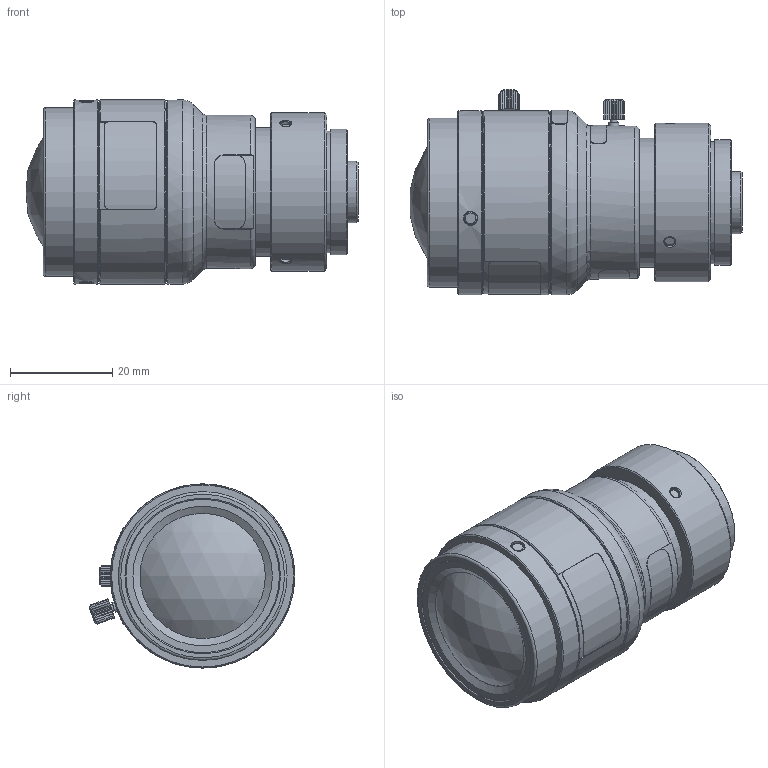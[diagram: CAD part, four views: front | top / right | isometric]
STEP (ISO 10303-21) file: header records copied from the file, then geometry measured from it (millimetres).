
FILE_DESCRIPTION(/* description */ ('STEP AP214'),/* implementation_level */ '2;1');
FILE_NAME(/* name */ 'SY125M',/* time_stamp */ '2023-01-25T23:55:35+01:00',/* author */ ('License CC BY-ND 4.0'),/* organization */ ('CADENAS'),/* preprocessor_version */ 'ST-DEVELOPER v18.102',/* originating_system */ 'PARTsolutions',/* authorisation */ ' ');
FILE_SCHEMA (('AUTOMOTIVE_DESIGN {1 0 10303 214 3 1 1}'));
Length unit declared in the file: millimetre
Products named in the file (2): SY125M; SY125M_PART1
Assembly tree (1 placements, depth 2):
  SY125M
    SY125M_PART1
Bounding box: 64.91 x 40.17 x 36 mm (x, y, z)
Volume: 49168.2 mm3; surface area: 9421.9 mm2
Topology: 1 solids, 1 shells, 292 faces, 754 edges, 500 vertices
Faces by surface type: plane 140, cone 65, cylinder 64, bspline 13, torus 8, sphere 2
Full cylindrical faces by diameter (mm): 1.2 x2, 1.4 x2, 2 x5, 2.5 x3, 2.8 x3, 5.4 x1, 10.922 x1, 12.1 x1, 21.5 x1, 23.85 x1, 24.5 x1, 24.54 x1, 25.227 x1, 30 x2, 31 x1, 33 x1, 34.955 x2, 36 x2
Entity records: 9182 total; most frequent: CARTESIAN_POINT 2844, ORIENTED_EDGE 1340, DIRECTION 1106, EDGE_CURVE 670, VERTEX_POINT 474, AXIS2_PLACEMENT_3D 427, EDGE_LOOP 384, FACE_BOUND 384
